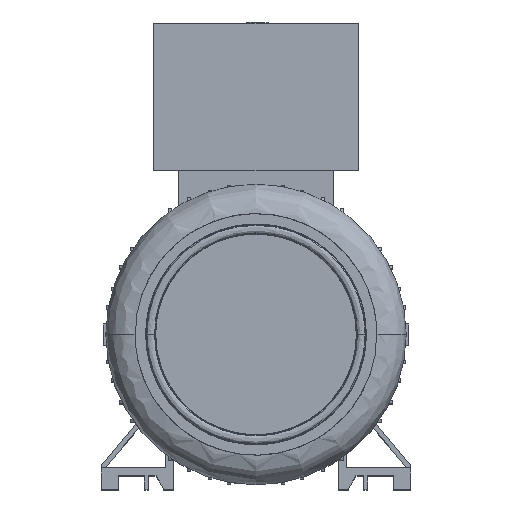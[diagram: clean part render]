
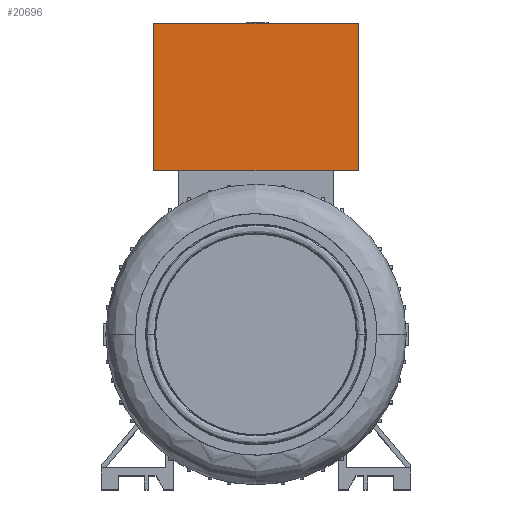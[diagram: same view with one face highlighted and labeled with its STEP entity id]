
A CAD part, top view. The second image highlights one B-rep face of the part: STEP entity #20696.
In plain terms, the highlighted planar face has unit normal (0, 0, 1).
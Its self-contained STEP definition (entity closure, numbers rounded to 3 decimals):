
#209 = LINE ( 'NONE', #7310, #15497 ) ;
#1119 = EDGE_CURVE ( 'NONE', #6398, #20587, #20487, .T. ) ;
#3005 = CARTESIAN_POINT ( 'NONE',  ( 66., 106., 40. ) ) ;
#3869 = CARTESIAN_POINT ( 'NONE',  ( -66., 201., 40. ) ) ;
#3928 = DIRECTION ( 'NONE',  ( 1., 0., 0. ) ) ;
#4012 = VECTOR ( 'NONE', #18011, 1000. ) ;
#5010 = DIRECTION ( 'NONE',  ( -1., 0., 0. ) ) ;
#5165 = CARTESIAN_POINT ( 'NONE',  ( 66., -84.919, 40. ) ) ;
#5848 = CARTESIAN_POINT ( 'NONE',  ( -66., 201., 40. ) ) ;
#6047 = EDGE_CURVE ( 'NONE', #16811, #23145, #18513, .T. ) ;
#6398 = VERTEX_POINT ( 'NONE', #3869 ) ;
#6700 = DIRECTION ( 'NONE',  ( 0., 0., 1. ) ) ;
#7310 = CARTESIAN_POINT ( 'NONE',  ( -66., -84.919, 40. ) ) ;
#10086 = VECTOR ( 'NONE', #3928, 1000. ) ;
#10355 = DIRECTION ( 'NONE',  ( 1., 0., 0. ) ) ;
#12453 = FACE_OUTER_BOUND ( 'NONE', #14581, .T. ) ;
#12467 = EDGE_CURVE ( 'NONE', #16811, #20587, #22195, .T. ) ;
#12886 = EDGE_CURVE ( 'NONE', #23145, #6398, #209, .T. ) ;
#13959 = PLANE ( 'NONE',  #22395 ) ;
#14029 = ORIENTED_EDGE ( 'NONE', *, *, #6047, .F. ) ;
#14450 = VECTOR ( 'NONE', #5010, 1000. ) ;
#14581 = EDGE_LOOP ( 'NONE', ( #17142, #23742, #17992, #14029 ) ) ;
#15497 = VECTOR ( 'NONE', #20319, 1000. ) ;
#16811 = VERTEX_POINT ( 'NONE', #22210 ) ;
#17142 = ORIENTED_EDGE ( 'NONE', *, *, #12467, .T. ) ;
#17992 = ORIENTED_EDGE ( 'NONE', *, *, #12886, .F. ) ;
#18011 = DIRECTION ( 'NONE',  ( 0., 1., 0. ) ) ;
#18513 = LINE ( 'NONE', #3005, #14450 ) ;
#20319 = DIRECTION ( 'NONE',  ( 0., 1., 0. ) ) ;
#20487 = LINE ( 'NONE', #5848, #10086 ) ;
#20587 = VERTEX_POINT ( 'NONE', #21169 ) ;
#20696 = ADVANCED_FACE ( 'NONE', ( #12453 ), #13959, .T. ) ;
#21169 = CARTESIAN_POINT ( 'NONE',  ( 66., 201., 40. ) ) ;
#21476 = CARTESIAN_POINT ( 'NONE',  ( 66., -84.919, 40. ) ) ;
#21812 = CARTESIAN_POINT ( 'NONE',  ( -66., 106., 40. ) ) ;
#22195 = LINE ( 'NONE', #5165, #4012 ) ;
#22210 = CARTESIAN_POINT ( 'NONE',  ( 66., 106., 40. ) ) ;
#22395 = AXIS2_PLACEMENT_3D ( 'NONE', #21476, #6700, #10355 ) ;
#23145 = VERTEX_POINT ( 'NONE', #21812 ) ;
#23742 = ORIENTED_EDGE ( 'NONE', *, *, #1119, .F. ) ;
